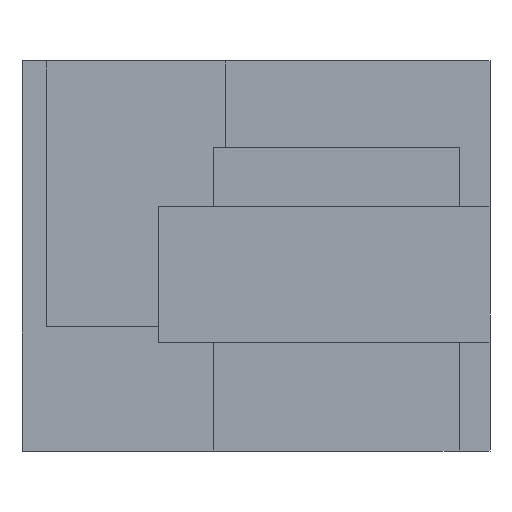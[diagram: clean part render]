
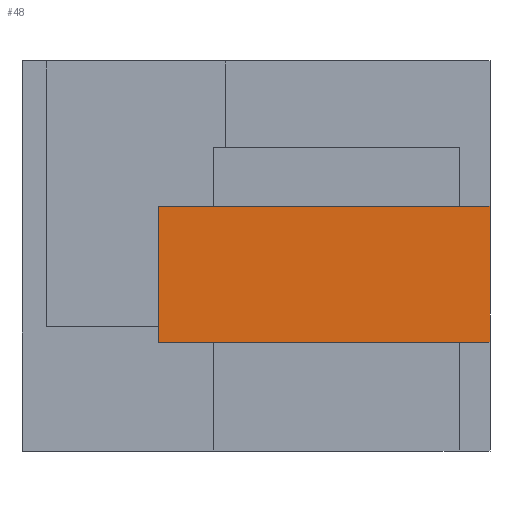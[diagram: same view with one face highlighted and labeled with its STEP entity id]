
A CAD part, top view. The second image highlights one B-rep face of the part: STEP entity #48.
In plain terms, the highlighted planar face has unit normal (0, 0, 1).
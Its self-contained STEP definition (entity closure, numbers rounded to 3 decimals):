
#48=ADVANCED_FACE('',(#100),#736,.T.);
#100=FACE_OUTER_BOUND('',#152,.T.);
#152=EDGE_LOOP('',(#278,#279,#280,#281));
#278=ORIENTED_EDGE('',*,*,#458,.T.);
#279=ORIENTED_EDGE('',*,*,#459,.T.);
#280=ORIENTED_EDGE('',*,*,#460,.T.);
#281=ORIENTED_EDGE('',*,*,#461,.T.);
#458=EDGE_CURVE('',#670,#671,#572,.T.);
#459=EDGE_CURVE('',#671,#672,#573,.T.);
#460=EDGE_CURVE('',#672,#673,#574,.T.);
#461=EDGE_CURVE('',#673,#670,#575,.T.);
#572=B_SPLINE_CURVE_WITH_KNOTS('',1,(#1128,#1129),.UNSPECIFIED.,.F.,.F.,
(2,2),(0.,1684.),.UNSPECIFIED.);
#573=B_SPLINE_CURVE_WITH_KNOTS('',1,(#1130,#1131),.UNSPECIFIED.,.F.,.F.,
(2,2),(0.,691.),.UNSPECIFIED.);
#574=B_SPLINE_CURVE_WITH_KNOTS('',1,(#1132,#1133),.UNSPECIFIED.,.F.,.F.,
(2,2),(0.,1684.),.UNSPECIFIED.);
#575=B_SPLINE_CURVE_WITH_KNOTS('',1,(#1134,#1135),.UNSPECIFIED.,.F.,.F.,
(2,2),(0.,691.),.UNSPECIFIED.);
#670=VERTEX_POINT('',#1120);
#671=VERTEX_POINT('',#1121);
#672=VERTEX_POINT('',#1122);
#673=VERTEX_POINT('',#1123);
#736=PLANE('',#876);
#876=AXIS2_PLACEMENT_3D('',#1114,#931,$);
#931=DIRECTION('',(0.,0.,1.));
#1114=CARTESIAN_POINT('',(698.707,558.186,0.));
#1120=CARTESIAN_POINT('',(698.707,558.186,0.));
#1121=CARTESIAN_POINT('',(2399.933,558.186,0.));
#1122=CARTESIAN_POINT('',(2399.933,1254.408,0.));
#1123=CARTESIAN_POINT('',(698.707,1254.408,0.));
#1128=CARTESIAN_POINT('',(698.707,558.186,0.));
#1129=CARTESIAN_POINT('',(2399.933,558.186,0.));
#1130=CARTESIAN_POINT('',(2399.933,558.186,0.));
#1131=CARTESIAN_POINT('',(2399.933,1254.408,0.));
#1132=CARTESIAN_POINT('',(2399.933,1254.408,0.));
#1133=CARTESIAN_POINT('',(698.707,1254.408,0.));
#1134=CARTESIAN_POINT('',(698.707,1254.408,0.));
#1135=CARTESIAN_POINT('',(698.707,558.186,0.));
